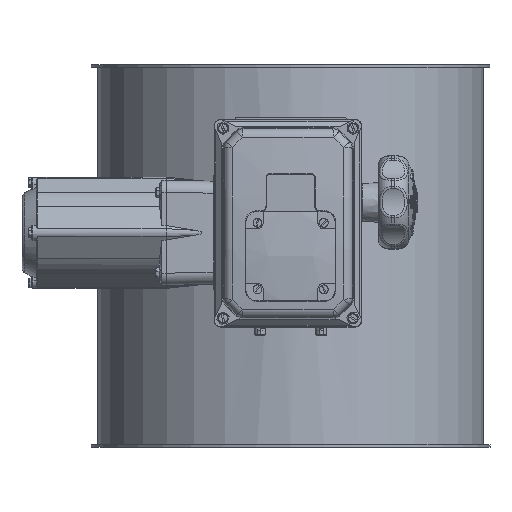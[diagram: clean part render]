
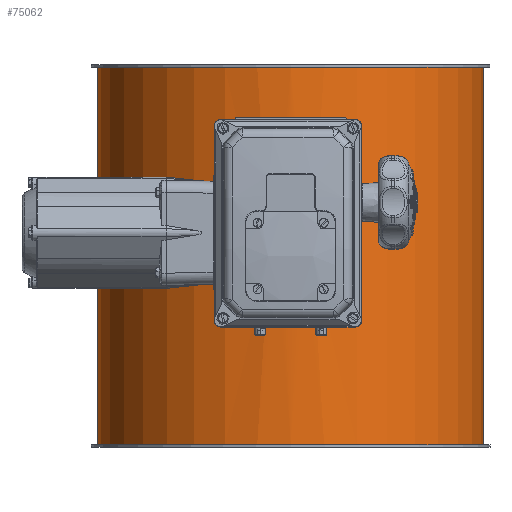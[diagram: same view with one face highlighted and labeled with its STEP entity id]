
A CAD part, left-side view. The second image highlights one B-rep face of the part: STEP entity #75062.
In plain terms, the highlighted cylindrical face has radius 176.5 mm (diameter 353 mm), a full revolution.
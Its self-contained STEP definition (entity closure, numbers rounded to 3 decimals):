
#74734=CARTESIAN_POINT('',(-175.363,20.0,175.));
#74735=VERTEX_POINT('',#74734);
#74736=CARTESIAN_POINT('',(-175.363,20.0,175.));
#74737=CARTESIAN_POINT('',(-175.363,20.0,176.257));
#74738=CARTESIAN_POINT('',(-175.377,19.88,177.556));
#74739=CARTESIAN_POINT('',(-175.434,19.373,180.14));
#74740=CARTESIAN_POINT('',(-175.477,18.987,181.425));
#74741=CARTESIAN_POINT('',(-175.584,17.966,183.888));
#74742=CARTESIAN_POINT('',(-175.649,17.33,185.069));
#74743=CARTESIAN_POINT('',(-175.787,15.862,187.252));
#74744=CARTESIAN_POINT('',(-175.861,15.029,188.255));
#74745=CARTESIAN_POINT('',(-176.004,13.255,190.029));
#74746=CARTESIAN_POINT('',(-176.078,12.252,190.862));
#74747=CARTESIAN_POINT('',(-176.216,10.069,192.33));
#74748=CARTESIAN_POINT('',(-176.28,8.888,192.966));
#74749=CARTESIAN_POINT('',(-176.387,6.425,193.987));
#74750=CARTESIAN_POINT('',(-176.43,5.14,194.373));
#74751=CARTESIAN_POINT('',(-176.486,2.556,194.88));
#74752=CARTESIAN_POINT('',(-176.5,1.257,195.0));
#74753=CARTESIAN_POINT('',(-176.5,-1.257,195.0));
#74754=CARTESIAN_POINT('',(-176.486,-2.556,194.88));
#74755=CARTESIAN_POINT('',(-176.43,-5.14,194.373));
#74756=CARTESIAN_POINT('',(-176.387,-6.425,193.987));
#74757=CARTESIAN_POINT('',(-176.28,-8.888,192.966));
#74758=CARTESIAN_POINT('',(-176.216,-10.069,192.33));
#74759=CARTESIAN_POINT('',(-176.078,-12.252,190.862));
#74760=CARTESIAN_POINT('',(-176.004,-13.255,190.029));
#74761=CARTESIAN_POINT('',(-175.861,-15.029,188.255));
#74762=CARTESIAN_POINT('',(-175.787,-15.862,187.252));
#74763=CARTESIAN_POINT('',(-175.649,-17.33,185.069));
#74764=CARTESIAN_POINT('',(-175.584,-17.966,183.888));
#74765=CARTESIAN_POINT('',(-175.477,-18.987,181.425));
#74766=CARTESIAN_POINT('',(-175.434,-19.373,180.14));
#74767=CARTESIAN_POINT('',(-175.377,-19.88,177.556));
#74768=CARTESIAN_POINT('',(-175.363,-20.0,176.257));
#74769=CARTESIAN_POINT('',(-175.363,-20.0,173.743));
#74770=CARTESIAN_POINT('',(-175.377,-19.88,172.444));
#74771=CARTESIAN_POINT('',(-175.434,-19.373,169.86));
#74772=CARTESIAN_POINT('',(-175.477,-18.987,168.575));
#74773=CARTESIAN_POINT('',(-175.584,-17.966,166.112));
#74774=CARTESIAN_POINT('',(-175.649,-17.33,164.931));
#74775=CARTESIAN_POINT('',(-175.787,-15.862,162.748));
#74776=CARTESIAN_POINT('',(-175.861,-15.029,161.745));
#74777=CARTESIAN_POINT('',(-176.004,-13.255,159.971));
#74778=CARTESIAN_POINT('',(-176.078,-12.252,159.138));
#74779=CARTESIAN_POINT('',(-176.216,-10.069,157.67));
#74780=CARTESIAN_POINT('',(-176.28,-8.888,157.034));
#74781=CARTESIAN_POINT('',(-176.387,-6.425,156.013));
#74782=CARTESIAN_POINT('',(-176.43,-5.14,155.627));
#74783=CARTESIAN_POINT('',(-176.486,-2.556,155.12));
#74784=CARTESIAN_POINT('',(-176.5,-1.257,155.0));
#74785=CARTESIAN_POINT('',(-176.5,1.257,155.0));
#74786=CARTESIAN_POINT('',(-176.486,2.556,155.12));
#74787=CARTESIAN_POINT('',(-176.43,5.14,155.627));
#74788=CARTESIAN_POINT('',(-176.387,6.425,156.013));
#74789=CARTESIAN_POINT('',(-176.28,8.888,157.034));
#74790=CARTESIAN_POINT('',(-176.216,10.069,157.67));
#74791=CARTESIAN_POINT('',(-176.078,12.252,159.138));
#74792=CARTESIAN_POINT('',(-176.004,13.255,159.971));
#74793=CARTESIAN_POINT('',(-175.861,15.029,161.745));
#74794=CARTESIAN_POINT('',(-175.787,15.862,162.748));
#74795=CARTESIAN_POINT('',(-175.649,17.33,164.931));
#74796=CARTESIAN_POINT('',(-175.584,17.966,166.112));
#74797=CARTESIAN_POINT('',(-175.477,18.987,168.575));
#74798=CARTESIAN_POINT('',(-175.434,19.373,169.86));
#74799=CARTESIAN_POINT('',(-175.377,19.88,172.444));
#74800=CARTESIAN_POINT('',(-175.363,20.0,173.743));
#74801=CARTESIAN_POINT('',(-175.363,20.0,175.0));
#74802=B_SPLINE_CURVE_WITH_KNOTS('',3,(#74736,#74737,#74738,#74739,#74740,#74741,#74742,#74743,#74744,#74745,#74746,#74747,#74748,#74749,#74750,#74751,#74752,#74753,#74754,#74755,#74756,#74757,#74758,#74759,#74760,#74761,#74762,#74763,#74764,#74765,#74766,#74767,#74768,#74769,#74770,#74771,#74772,#74773,#74774,#74775,#74776,#74777,#74778,#74779,#74780,#74781,#74782,#74783,#74784,#74785,#74786,#74787,#74788,#74789,#74790,#74791,#74792,#74793,#74794,#74795,#74796,#74797,#74798,#74799,#74800,#74801),.UNSPECIFIED.,.T.,.U.,(4,2,2,2,2,2,2,2,2,2,2,2,2,2,2,2,2,2,2,2,2,2,2,2,2,2,2,2,2,2,2,2,4),(0.0,0.377,0.754,1.131,1.508,1.885,2.262,2.639,3.016,3.393,3.77,4.147,4.524,4.901,5.278,5.656,6.033,6.41,6.787,7.164,7.541,7.918,8.295,8.672,9.049,9.426,9.803,10.18,10.557,10.934,11.311,11.688,12.065),.UNSPECIFIED.);
#74803=EDGE_CURVE('',#74735,#74735,#74802,.T.);
#74991=CARTESIAN_POINT('',(175.473,19.015,175.0));
#74992=VERTEX_POINT('',#74991);
#75002=CARTESIAN_POINT('',(175.473,19.014,175.));
#75003=CARTESIAN_POINT('',(175.473,19.014,175.002));
#75004=CARTESIAN_POINT('',(175.473,19.014,175.004));
#75005=CARTESIAN_POINT('',(175.473,19.014,175.006));
#75006=CARTESIAN_POINT('',(175.473,19.013,177.908));
#75007=CARTESIAN_POINT('',(175.618,17.739,183.703));
#75008=CARTESIAN_POINT('',(176.117,12.276,190.75));
#75009=CARTESIAN_POINT('',(176.515,4.419,194.649));
#75010=CARTESIAN_POINT('',(176.515,-4.364,194.664));
#75011=CARTESIAN_POINT('',(176.121,-12.235,190.778));
#75012=CARTESIAN_POINT('',(175.562,-18.322,183.001));
#75013=CARTESIAN_POINT('',(175.399,-19.667,173.947));
#75014=CARTESIAN_POINT('',(175.647,-17.389,166.424));
#75015=CARTESIAN_POINT('',(176.047,-13.084,159.911));
#75016=CARTESIAN_POINT('',(176.518,-5.368,155.331));
#75017=CARTESIAN_POINT('',(176.515,4.371,155.345));
#75018=CARTESIAN_POINT('',(176.119,12.255,159.225));
#75019=CARTESIAN_POINT('',(175.704,16.806,165.086));
#75020=CARTESIAN_POINT('',(175.508,18.689,170.612));
#75021=CARTESIAN_POINT('',(175.473,19.014,173.55));
#75022=CARTESIAN_POINT('',(175.473,19.014,175.));
#75023=B_SPLINE_CURVE_WITH_KNOTS('',3,(#75002,#75003,#75004,#75005,#75006,#75007,#75008,#75009,#75010,#75011,#75012,#75013,#75014,#75015,#75016,#75017,#75018,#75019,#75020,#75021,#75022),.UNSPECIFIED.,.T.,.U.,(4,3,1,1,1,1,1,1,1,1,1,1,1,1,1,1,4),(-9.046,-9.045,-8.399,-7.753,-7.107,-6.461,-5.815,-5.169,-4.307,-3.876,-3.446,-2.584,-1.938,-1.292,-0.646,-0.323,0.),.UNSPECIFIED.);
#75024=EDGE_CURVE('',#74992,#74992,#75023,.T.);
#75029=CARTESIAN_POINT('',(0.0,0.0,0.0));
#75030=DIRECTION('',(0.0,0.0,1.0));
#75031=DIRECTION('',(-1.0,0.0,0.0));
#75032=AXIS2_PLACEMENT_3D('',#75029,#75030,#75031);
#75033=CYLINDRICAL_SURFACE('',#75032,176.5);
#75034=CARTESIAN_POINT('',(176.5,0.,348.0));
#75035=VERTEX_POINT('',#75034);
#75036=CARTESIAN_POINT('',(0.0,0.0,348.0));
#75037=DIRECTION('',(0.0,0.0,-1.0));
#75038=DIRECTION('',(-1.0,0.0,0.0));
#75039=AXIS2_PLACEMENT_3D('',#75036,#75037,#75038);
#75040=CIRCLE('',#75039,176.5);
#75041=EDGE_CURVE('',#75035,#75035,#75040,.T.);
#75042=ORIENTED_EDGE('',*,*,#75041,.T.);
#75043=EDGE_LOOP('',(#75042));
#75044=FACE_OUTER_BOUND('',#75043,.T.);
#75045=ORIENTED_EDGE('',*,*,#74803,.T.);
#75046=EDGE_LOOP('',(#75045));
#75047=FACE_BOUND('',#75046,.T.);
#75048=CARTESIAN_POINT('',(-176.5,0.,2.0));
#75049=VERTEX_POINT('',#75048);
#75050=CARTESIAN_POINT('',(0.0,0.0,2.0));
#75051=DIRECTION('',(0.0,0.0,1.0));
#75052=DIRECTION('',(-1.0,0.0,0.0));
#75053=AXIS2_PLACEMENT_3D('',#75050,#75051,#75052);
#75054=CIRCLE('',#75053,176.5);
#75055=EDGE_CURVE('',#75049,#75049,#75054,.T.);
#75056=ORIENTED_EDGE('',*,*,#75055,.T.);
#75057=EDGE_LOOP('',(#75056));
#75058=FACE_BOUND('',#75057,.T.);
#75059=ORIENTED_EDGE('',*,*,#75024,.F.);
#75060=EDGE_LOOP('',(#75059));
#75061=FACE_BOUND('',#75060,.T.);
#75062=ADVANCED_FACE('',(#75044,#75047,#75058,#75061),#75033,.T.);
